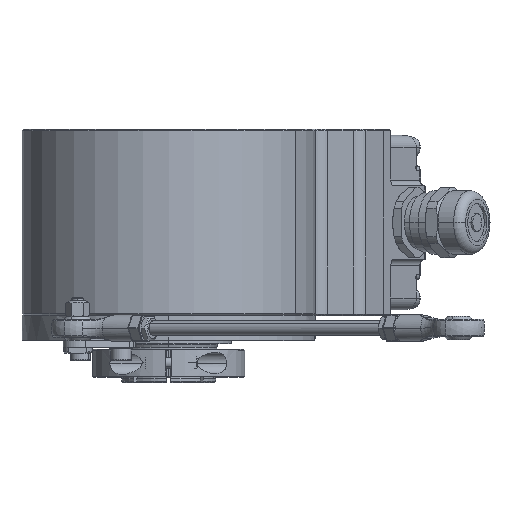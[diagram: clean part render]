
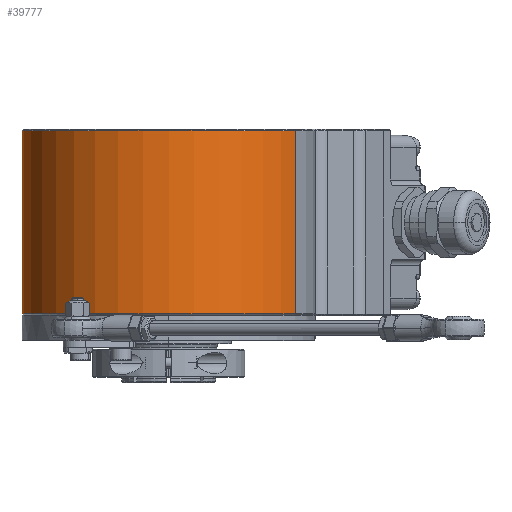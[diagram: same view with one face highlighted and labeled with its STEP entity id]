
A CAD part, top view. The second image highlights one B-rep face of the part: STEP entity #39777.
In plain terms, the highlighted cylindrical face has radius 50 mm (diameter 100 mm), a partial arc.
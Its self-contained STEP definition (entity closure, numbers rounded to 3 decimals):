
#1687 = DIRECTION ( 'NONE',  ( 0., 1., 0. ) ) ;
#2632 = DIRECTION ( 'NONE',  ( -0.866, 0., -0.5 ) ) ;
#3646 = ORIENTED_EDGE ( 'NONE', *, *, #27942, .T. ) ;
#4334 = CARTESIAN_POINT ( 'NONE',  ( 43.301, 75.5, 25. ) ) ;
#5377 = ORIENTED_EDGE ( 'NONE', *, *, #37780, .T. ) ;
#5928 = LINE ( 'NONE', #41857, #24797 ) ;
#7943 = DIRECTION ( 'NONE',  ( 0., 1., 0. ) ) ;
#8925 = VERTEX_POINT ( 'NONE', #4334 ) ;
#10407 = CARTESIAN_POINT ( 'NONE',  ( -43.301, 62.5, -25. ) ) ;
#10635 = VECTOR ( 'NONE', #14393, 1000. ) ;
#14393 = DIRECTION ( 'NONE',  ( 0., 1., 0. ) ) ;
#14439 = CARTESIAN_POINT ( 'NONE',  ( 43.301, 13., 25. ) ) ;
#22934 = EDGE_LOOP ( 'NONE', ( #42845, #5377, #3646, #26200 ) ) ;
#24259 = CARTESIAN_POINT ( 'NONE',  ( 0., 13., 0. ) ) ;
#24458 = CARTESIAN_POINT ( 'NONE',  ( -43.301, 75.5, -25. ) ) ;
#24797 = VECTOR ( 'NONE', #33808, 1000. ) ;
#25200 = DIRECTION ( 'NONE',  ( 0., -1., 0. ) ) ;
#26200 = ORIENTED_EDGE ( 'NONE', *, *, #30712, .T. ) ;
#26361 = CYLINDRICAL_SURFACE ( 'NONE', #46228, 50. ) ;
#27942 = EDGE_CURVE ( 'NONE', #31324, #8925, #5928, .T. ) ;
#28052 = DIRECTION ( 'NONE',  ( 0.866, 0., 0.5 ) ) ;
#29554 = LINE ( 'NONE', #10407, #10635 ) ;
#30712 = EDGE_CURVE ( 'NONE', #8925, #32705, #47687, .T. ) ;
#30743 = DIRECTION ( 'NONE',  ( 0.866, 0., 0.5 ) ) ;
#31324 = VERTEX_POINT ( 'NONE', #14439 ) ;
#32705 = VERTEX_POINT ( 'NONE', #24458 ) ;
#33808 = DIRECTION ( 'NONE',  ( 0., 1., 0. ) ) ;
#34478 = CARTESIAN_POINT ( 'NONE',  ( 0., 62.5, 0. ) ) ;
#35650 = AXIS2_PLACEMENT_3D ( 'NONE', #47737, #25200, #2632 ) ;
#37570 = EDGE_CURVE ( 'NONE', #47591, #32705, #29554, .T. ) ;
#37780 = EDGE_CURVE ( 'NONE', #47591, #31324, #41275, .T. ) ;
#38575 = AXIS2_PLACEMENT_3D ( 'NONE', #24259, #1687, #28052 ) ;
#38724 = FACE_OUTER_BOUND ( 'NONE', #22934, .T. ) ;
#39777 = ADVANCED_FACE ( 'NONE', ( #38724 ), #26361, .T. ) ;
#41275 = CIRCLE ( 'NONE', #38575, 50. ) ;
#41857 = CARTESIAN_POINT ( 'NONE',  ( 43.301, 62.5, 25. ) ) ;
#42219 = CARTESIAN_POINT ( 'NONE',  ( -43.301, 13., -25. ) ) ;
#42845 = ORIENTED_EDGE ( 'NONE', *, *, #37570, .F. ) ;
#46228 = AXIS2_PLACEMENT_3D ( 'NONE', #34478, #7943, #30743 ) ;
#47591 = VERTEX_POINT ( 'NONE', #42219 ) ;
#47687 = CIRCLE ( 'NONE', #35650, 50. ) ;
#47737 = CARTESIAN_POINT ( 'NONE',  ( 0., 75.5, 0. ) ) ;
